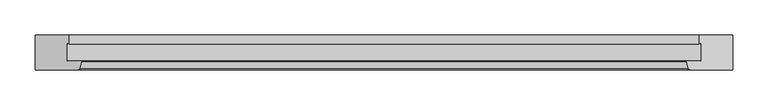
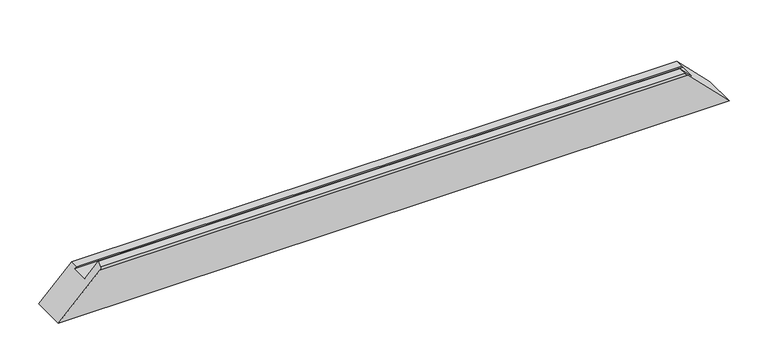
"""IFC4 building model written with IfcOpenShell, lengths in millimetres: proxy geometry, Weiku - Montante - Caixilho 02.2.01.005 : Weiku - Montante - Caixilho 02.2.01.005."""

from ifc_helpers import new_model, si_unit, frame, origin, place, context, project, spatial, ellipse_curve, source, transform, mapped, element, save
from ifc_brep_helpers import plane_surface, cylinder_surface, advanced_brep


def generic_models_2e0ea284(model_context):
    return source(origin(), model_context, "Body", "AdvancedBrep", [
        advanced_brep(
        [(-451.5, 12.5, 46.0), (-431.3909676, 12.5, 66.1090324), (431.3909676, 12.5, 66.1090324), (451.5, 12.5, 46.0), (-451.5, 37.8314286, 46.0), (451.5, 37.8314286, 46.0), (-448.5, 37.027581, 49.0), (448.5, 37.027581, 49.0), (-448.5, 50.0, 49.0), (448.5, 50.0, 49.0), (497.5, 50.0, 0.0), (-497.5, 50.0, 0.0), (497.5, 0.0, 0.0), (-497.5, 0.0, 0.0), (435.9997332, 0.0, 61.5002668), (-435.9997332, 0.0, 61.5002668), (-430.618227, 11.4929448, 66.881773), (-433.1019557, 2.2235429, 64.3980443), (433.1019557, 2.2235429, 64.3980443), (430.618227, 11.4929448, 66.881773)],
        [
            (0, 1),
            (1, 2),
            (2, 3),
            (3, 0),
            (4, 0),
            (3, 5),
            (5, 4),
            (6, 4),
            (5, 7),
            (7, 6),
            (8, 6),
            (7, 9),
            (9, 8),
            (10, 11),
            (11, 8),
            (9, 10),
            (10, 12),
            (12, 13),
            (13, 11),
            (12, 14),
            (14, 15),
            (15, 13),
            (16, 17),
            (17, 18),
            (18, 19),
            (19, 16),
            (15, 17, ellipse_curve(frame((-435.9997332, 3.0, 61.5002668), z_axis=(-0.7071067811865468, 0.0, 0.7071067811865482), x_axis=(-0.7071067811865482, 0.0, -0.7071067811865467)), 4.2426407, 3.0)),
            (16, 1, ellipse_curve(frame((-431.3909676, 11.7, 66.1090324), z_axis=(-0.7071067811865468, 0.0, 0.7071067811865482), x_axis=(-0.7071067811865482, 0.0, -0.7071067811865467)), 1.1313708, 0.8)),
            (2, 19, ellipse_curve(frame((431.3909676, 11.7, 66.1090324), z_axis=(0.707106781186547, 0.0, 0.7071067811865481), x_axis=(-0.7071067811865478, 0.0, 0.707106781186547)), 1.1313708, 0.8)),
            (18, 14, ellipse_curve(frame((435.9997332, 3.0, 61.5002668), z_axis=(0.707106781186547, 0.0, 0.7071067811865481), x_axis=(-0.7071067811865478, 0.0, 0.707106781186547)), 4.2426407, 3.0)),
        ],
        [
            plane_surface(frame((-497.5, 12.5, 66.1090324), z_axis=(0.0, 1.0, 0.0), x_axis=(1.0, 0.0, 0.0))),
            plane_surface(frame((-497.5, 12.5, 46.0), z_axis=(0.0, 0.0, 1.0), x_axis=(1.0, 0.0, 0.0))),
            plane_surface(frame((-497.5, 37.8314286, 46.0), z_axis=(0.0, -0.9659258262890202, -0.2588190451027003), x_axis=(1.0, 0.0, 0.0))),
            plane_surface(frame((-497.5, 37.027581, 49.0), z_axis=(0.0, 0.0, 1.0), x_axis=(1.0, 0.0, 0.0))),
            plane_surface(frame((-497.5, 50.0, 49.0), z_axis=(0.0, 1.0, 0.0), x_axis=(1.0, 0.0, 0.0))),
            plane_surface(frame((-497.5, 50.0, 0.0), z_axis=(0.0, 0.0, -1.0), x_axis=(1.0, 0.0, 0.0))),
            plane_surface(frame((-497.5, 0.0, 0.0), z_axis=(0.0, -1.0, 0.0), x_axis=(1.0, 0.0, 0.0))),
            plane_surface(frame((-497.5, 2.2235429, 64.3980443), z_axis=(0.0, -0.2588190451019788, 0.9659258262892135), x_axis=(1.0, 0.0, 0.0))),
            plane_surface(frame((-567.5, -15.0, -70.0), z_axis=(-0.7071067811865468, 0.0, 0.7071067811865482), x_axis=(0.0, 1.0, 0.0))),
            plane_surface(frame((427.5, -15.0, 70.0), z_axis=(0.707106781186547, 0.0, 0.7071067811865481), x_axis=(0.0, 1.0, 0.0))),
            cylinder_surface(frame((-497.5, 11.7, 66.1090324), z_axis=(-1.0, 0.0, 0.0), x_axis=(0.0, 1.0, 0.0)), 0.8),
            cylinder_surface(frame((-497.5, 3.0, 61.5002668), z_axis=(-1.0, 0.0, 0.0), x_axis=(0.0, 1.0, 0.0)), 3.0),
        ],
        [
            (0, [[1, 2, 3, 4]]),
            (1, [[5, -4, 6, 7]]),
            (2, [[8, -7, 9, 10]]),
            (3, [[11, -10, 12, 13]]),
            (4, [[14, 15, -13, 16]]),
            (5, [[-14, 17, 18, 19]]),
            (6, [[-18, 20, 21, 22]]),
            (7, [[23, 24, 25, 26]]),
            (8, [[-1, -5, -8, -11, -15, -19, -22, 27, -23, 28]]),
            (9, [[-3, 29, -25, 30, -20, -17, -16, -12, -9, -6]]),
            (10, [[-28, -26, -29, -2]]),
            (11, [[-27, -21, -30, -24]]),
        ],
    ),
    ])


if __name__ == "__main__":
    model = new_model("IFC4")
    model_context = context("Model", 3, world=origin())
    ifc_project = project(units=[si_unit("LENGTHUNIT", "METRE", prefix="MILLI")], contexts=[model_context])
    site = spatial("IfcSite", under=ifc_project)
    building = spatial("IfcBuilding", under=site)
    placement = place(None, origin())
    generic_models_shape = generic_models_2e0ea284(model_context)
    element("IfcBuildingElementProxy", 1, Name="Weiku - Montante - Caixilho 02.2.01.005 : Weiku - Montante - Caixilho 02.2.01.005", ObjectType="Weiku - Montante - Caixilho 02.2.01.005 : Weiku - Montante - Caixilho 02.2.01.005", at=placement, inside=building, context=model_context, shape_type="MappedRepresentation", body=[
        mapped(generic_models_shape, transform((0.0, 0.0, 0.0), x_axis=(1.0, 0.0, 0.0), y_axis=(0.0, 1.0, 0.0), z_axis=(0.0, 0.0, 1.0))),
    ])
    save(model, "model.ifc")
